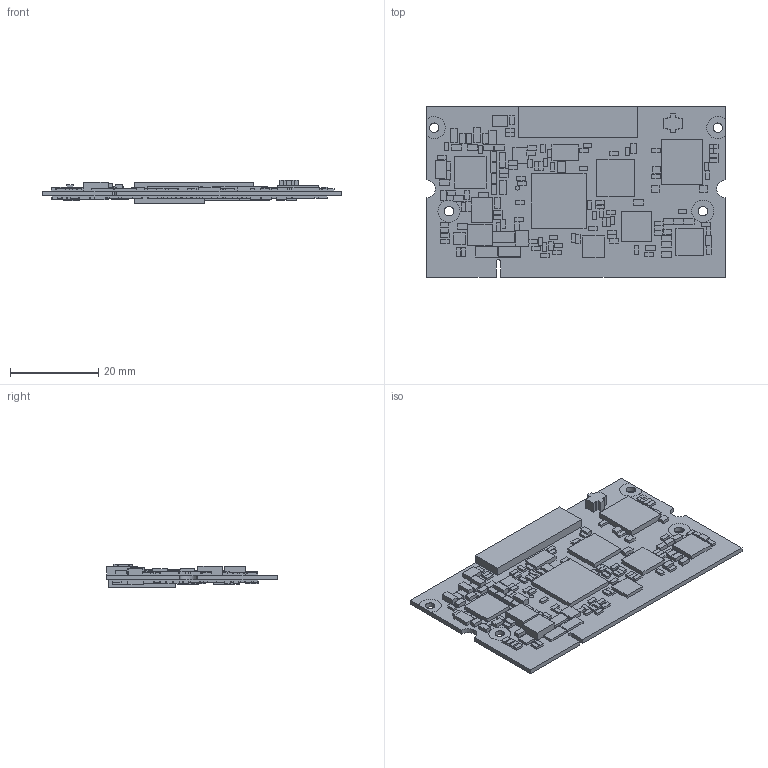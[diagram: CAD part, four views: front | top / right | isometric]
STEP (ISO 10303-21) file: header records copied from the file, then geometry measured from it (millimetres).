
FILE_DESCRIPTION (( 'STEP AP203' ), '1' );
FILE_NAME ('var-som-om44-rev1_1_end2-feb-2012.STEP', '2012-02-16T08:39:14', ( 'gaby' ), ( '' ), 'SwSTEP 2.0', 'SolidWorks 2011', '' );
FILE_SCHEMA (( 'CONFIG_CONTROL_DESIGN' ));
Length unit declared in the file: millimetre
Products named in the file (1): var-som-om44-rev1_1_end2-feb-2012
Bounding box: 67.6 x 38.56 x 5.39 mm (x, y, z)
Volume: 4960 mm3; surface area: 11607.9 mm2
Topology: 334 solids, 334 shells, 2037 faces, 4107 edges, 2738 vertices
Faces by surface type: plane 2003, cylinder 34
Entity records: 51372 total; most frequent: CARTESIAN_POINT 8883, DIRECTION 8251, ORIENTED_EDGE 8214, EDGE_CURVE 4107, VECTOR 4039, LINE 4039, VERTEX_POINT 2738, AXIS2_PLACEMENT_3D 2106
